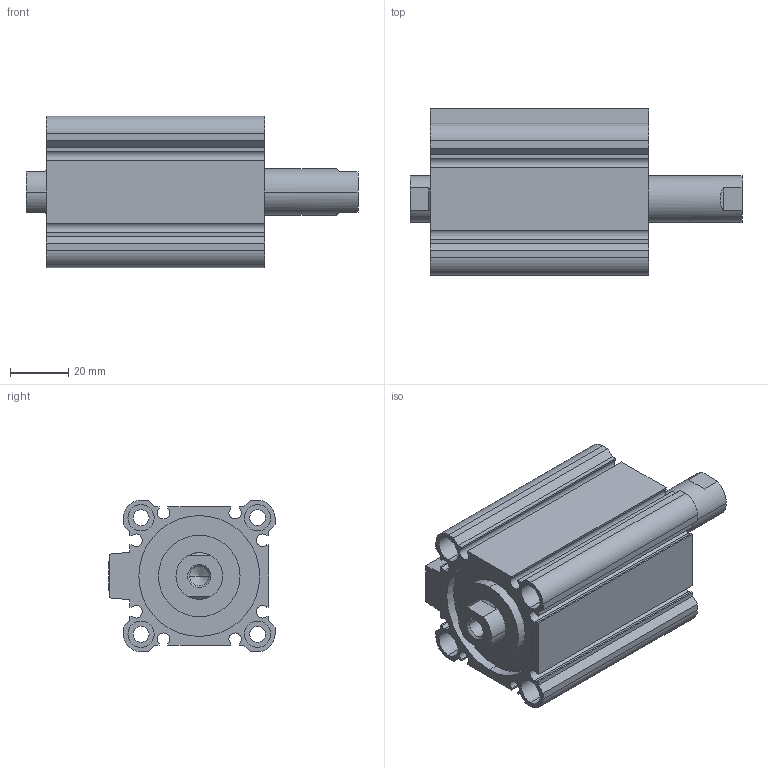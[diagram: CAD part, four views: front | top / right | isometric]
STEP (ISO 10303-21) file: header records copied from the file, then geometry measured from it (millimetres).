
FILE_DESCRIPTION (( 'STEP AP203' ), '1' );
FILE_NAME ('CCMB40-25F-P.STEP', '2020-08-05T11:23:53', ( '' ), ( '' ), 'SwSTEP 2.0', 'SolidWorks 2019', '' );
FILE_SCHEMA (( 'CONFIG_CONTROL_DESIGN' ));
Length unit declared in the file: millimetre
Products named in the file (1): CCMB40-25F-P
Bounding box: 114 x 57 x 52 mm (x, y, z)
Volume: 143814.6 mm3; surface area: 54074.2 mm2
Topology: 2 solids, 2 shells, 164 faces, 414 edges, 270 vertices
Faces by surface type: plane 78, cylinder 74, cone 12
Entity records: 5029 total; most frequent: DIRECTION 896, CARTESIAN_POINT 857, ORIENTED_EDGE 820, EDGE_CURVE 410, AXIS2_PLACEMENT_3D 325, VERTEX_POINT 270, VECTOR 246, LINE 246
